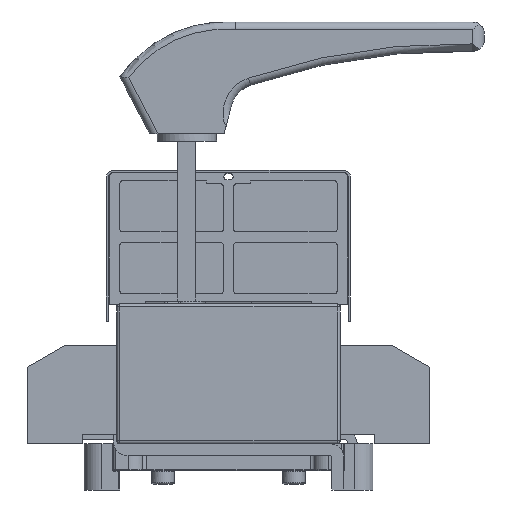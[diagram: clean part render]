
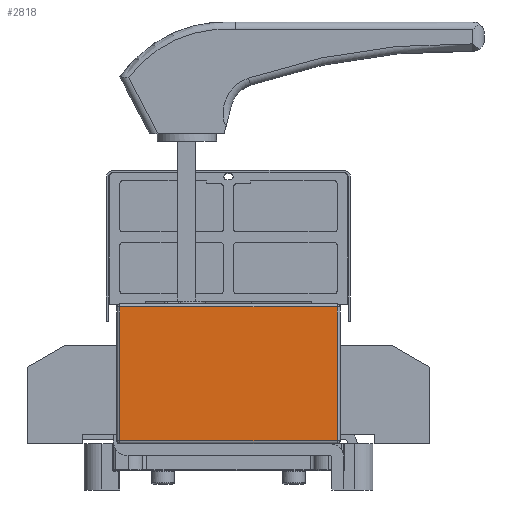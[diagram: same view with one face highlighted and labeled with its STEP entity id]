
A CAD part, left-side view. The second image highlights one B-rep face of the part: STEP entity #2818.
In plain terms, the highlighted planar face has unit normal (-1, 0, 0).
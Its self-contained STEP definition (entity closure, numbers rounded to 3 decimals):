
#2818=ADVANCED_FACE('',(#5744),#4616,.F.);
#4616=PLANE('',#33864);
#5744=FACE_OUTER_BOUND('',#7392,.T.);
#7392=EDGE_LOOP('',(#10270,#10271,#10272,#10273));
#10270=ORIENTED_EDGE('',*,*,#22821,.T.);
#10271=ORIENTED_EDGE('',*,*,#22822,.T.);
#10272=ORIENTED_EDGE('',*,*,#22823,.T.);
#10273=ORIENTED_EDGE('',*,*,#22824,.T.);
#19562=VERTEX_POINT('',#47779);
#19563=VERTEX_POINT('',#47780);
#19564=VERTEX_POINT('',#47782);
#19565=VERTEX_POINT('',#47784);
#22821=EDGE_CURVE('',#19562,#19563,#27439,.T.);
#22822=EDGE_CURVE('',#19563,#19564,#27440,.T.);
#22823=EDGE_CURVE('',#19564,#19565,#27441,.T.);
#22824=EDGE_CURVE('',#19565,#19562,#27442,.T.);
#27439=LINE('',#47778,#30801);
#27440=LINE('',#47781,#30802);
#27441=LINE('',#47783,#30803);
#27442=LINE('',#47785,#30804);
#30801=VECTOR('',#37734,1.);
#30802=VECTOR('',#37735,1.);
#30803=VECTOR('',#37736,1.);
#30804=VECTOR('',#37737,1.);
#33864=AXIS2_PLACEMENT_3D('',#47786,#37738,#37739);
#37734=DIRECTION('',(0.,0.,-1.));
#37735=DIRECTION('',(0.,-1.,0.));
#37736=DIRECTION('',(0.,0.,1.));
#37737=DIRECTION('',(0.,1.,0.));
#37738=DIRECTION('',(1.,0.,0.));
#37739=DIRECTION('',(0.,1.,0.));
#47778=CARTESIAN_POINT('',(-150.,73.,94.));
#47779=CARTESIAN_POINT('',(-150.,73.,92.));
#47780=CARTESIAN_POINT('',(-150.,73.,2.));
#47781=CARTESIAN_POINT('',(-150.,75.,2.));
#47782=CARTESIAN_POINT('',(-150.,-73.,2.));
#47783=CARTESIAN_POINT('',(-150.,-73.,94.));
#47784=CARTESIAN_POINT('',(-150.,-73.,92.));
#47785=CARTESIAN_POINT('',(-150.,73.,92.));
#47786=CARTESIAN_POINT('',(-150.,75.,94.));
